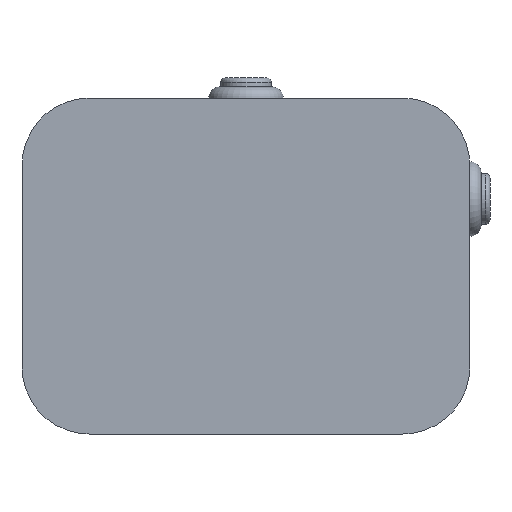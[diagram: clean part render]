
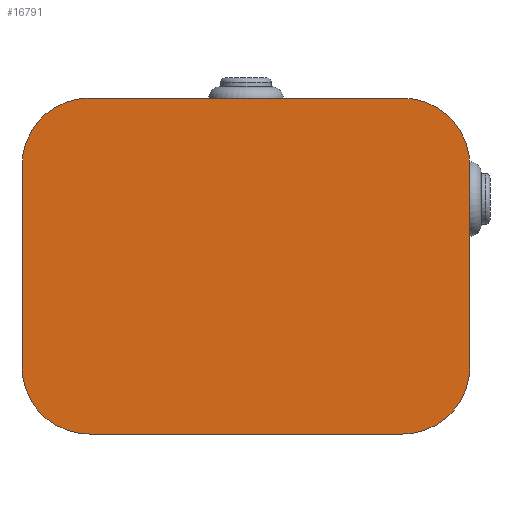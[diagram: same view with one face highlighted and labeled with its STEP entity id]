
A CAD part, front view. The second image highlights one B-rep face of the part: STEP entity #16791.
In plain terms, the highlighted planar face has unit normal (0, -1, 0).
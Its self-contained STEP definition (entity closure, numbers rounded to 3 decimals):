
#1110=CIRCLE('',#18088,30.);
#1114=CIRCLE('',#18095,30.);
#1115=CIRCLE('',#18098,30.);
#1116=CIRCLE('',#18101,30.);
#1926=FACE_OUTER_BOUND('',#2933,.T.);
#2933=EDGE_LOOP('',(#11801,#11802,#11803,#11804,#11805,#11806,#11807,#11808));
#4078=LINE('',#25517,#5611);
#4085=LINE('',#25538,#5618);
#4088=LINE('',#25546,#5621);
#4090=LINE('',#25552,#5623);
#5611=VECTOR('',#20374,10.);
#5618=VECTOR('',#20395,10.);
#5621=VECTOR('',#20404,10.);
#5623=VECTOR('',#20412,10.);
#7181=VERTEX_POINT('',#25507);
#7182=VERTEX_POINT('',#25509);
#7184=VERTEX_POINT('',#25515);
#7190=VERTEX_POINT('',#25532);
#7191=VERTEX_POINT('',#25536);
#7192=VERTEX_POINT('',#25540);
#7193=VERTEX_POINT('',#25542);
#7194=VERTEX_POINT('',#25548);
#8939=EDGE_CURVE('',#7181,#7182,#1110,.T.);
#8943=EDGE_CURVE('',#7184,#7181,#4078,.T.);
#8952=EDGE_CURVE('',#7190,#7184,#1114,.T.);
#8954=EDGE_CURVE('',#7191,#7190,#4085,.T.);
#8956=EDGE_CURVE('',#7192,#7193,#1115,.T.);
#8958=EDGE_CURVE('',#7182,#7192,#4088,.T.);
#8960=EDGE_CURVE('',#7194,#7191,#1116,.T.);
#8961=EDGE_CURVE('',#7193,#7194,#4090,.T.);
#11801=ORIENTED_EDGE('',*,*,#8939,.F.);
#11802=ORIENTED_EDGE('',*,*,#8943,.F.);
#11803=ORIENTED_EDGE('',*,*,#8952,.F.);
#11804=ORIENTED_EDGE('',*,*,#8954,.F.);
#11805=ORIENTED_EDGE('',*,*,#8960,.F.);
#11806=ORIENTED_EDGE('',*,*,#8961,.F.);
#11807=ORIENTED_EDGE('',*,*,#8956,.F.);
#11808=ORIENTED_EDGE('',*,*,#8958,.F.);
#16190=PLANE('',#18103);
#16791=ADVANCED_FACE('',(#1926),#16190,.F.);
#18088=AXIS2_PLACEMENT_3D('',#25510,#20367,#20368);
#18095=AXIS2_PLACEMENT_3D('',#25534,#20390,#20391);
#18098=AXIS2_PLACEMENT_3D('',#25543,#20399,#20400);
#18101=AXIS2_PLACEMENT_3D('',#25550,#20408,#20409);
#18103=AXIS2_PLACEMENT_3D('',#25553,#20413,#20414);
#20367=DIRECTION('center_axis',(0.,1.,0.));
#20368=DIRECTION('ref_axis',(-0.707,0.,-0.707));
#20374=DIRECTION('',(-1.,0.,0.));
#20390=DIRECTION('center_axis',(0.,1.,0.));
#20391=DIRECTION('ref_axis',(0.707,0.,-0.707));
#20395=DIRECTION('',(0.,0.,-1.));
#20399=DIRECTION('center_axis',(0.,1.,0.));
#20400=DIRECTION('ref_axis',(-0.707,0.,0.707));
#20404=DIRECTION('',(0.,0.,1.));
#20408=DIRECTION('center_axis',(0.,1.,0.));
#20409=DIRECTION('ref_axis',(0.707,0.,0.707));
#20412=DIRECTION('',(1.,0.,0.));
#20413=DIRECTION('center_axis',(0.,1.,0.));
#20414=DIRECTION('ref_axis',(1.,0.,0.));
#25507=CARTESIAN_POINT('',(-70.,0.,-75.));
#25509=CARTESIAN_POINT('',(-100.,0.,-45.));
#25510=CARTESIAN_POINT('Origin',(-70.,0.,-45.));
#25515=CARTESIAN_POINT('',(70.,0.,-75.));
#25517=CARTESIAN_POINT('',(100.,0.,-75.));
#25532=CARTESIAN_POINT('',(100.,0.,-45.));
#25534=CARTESIAN_POINT('Origin',(70.,0.,-45.));
#25536=CARTESIAN_POINT('',(100.,0.,45.));
#25538=CARTESIAN_POINT('',(100.,0.,75.));
#25540=CARTESIAN_POINT('',(-100.,0.,45.));
#25542=CARTESIAN_POINT('',(-70.,0.,75.));
#25543=CARTESIAN_POINT('Origin',(-70.,0.,45.));
#25546=CARTESIAN_POINT('',(-100.,0.,-75.));
#25548=CARTESIAN_POINT('',(70.,0.,75.));
#25550=CARTESIAN_POINT('Origin',(70.,0.,45.));
#25552=CARTESIAN_POINT('',(-100.,0.,75.));
#25553=CARTESIAN_POINT('Origin',(0.,0.,0.));
